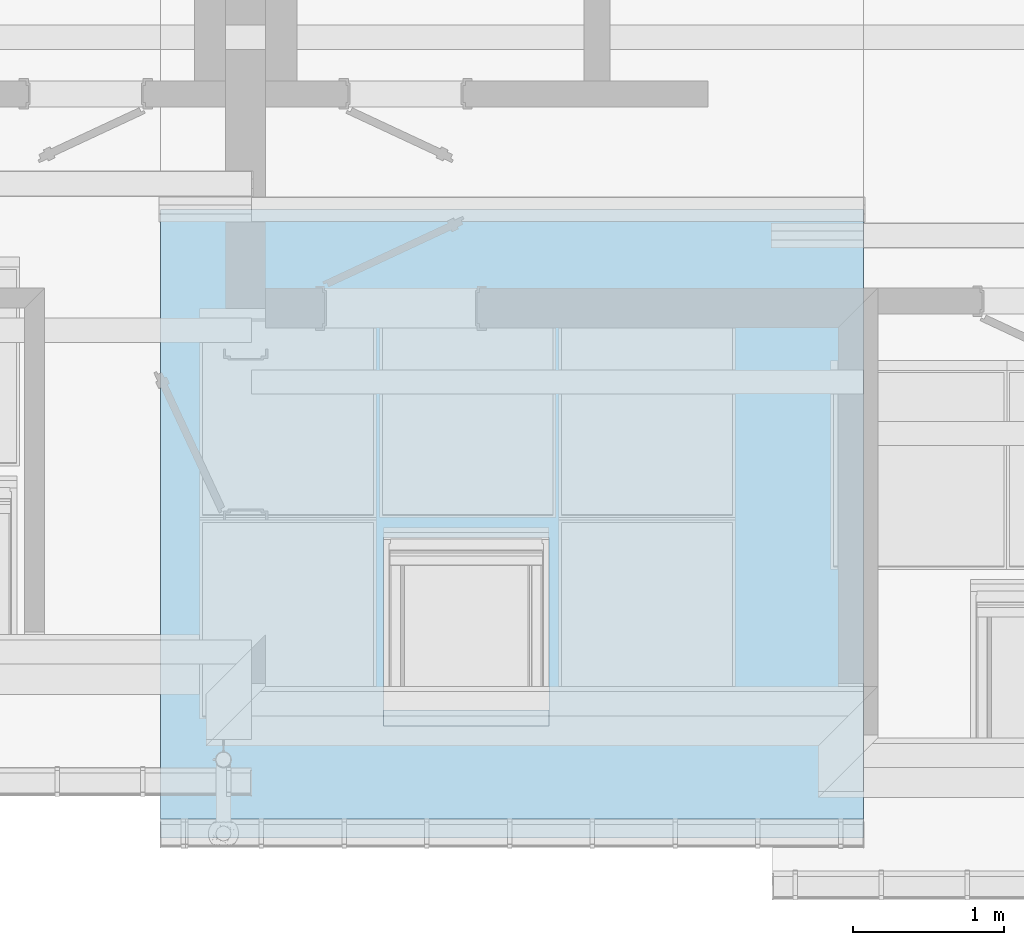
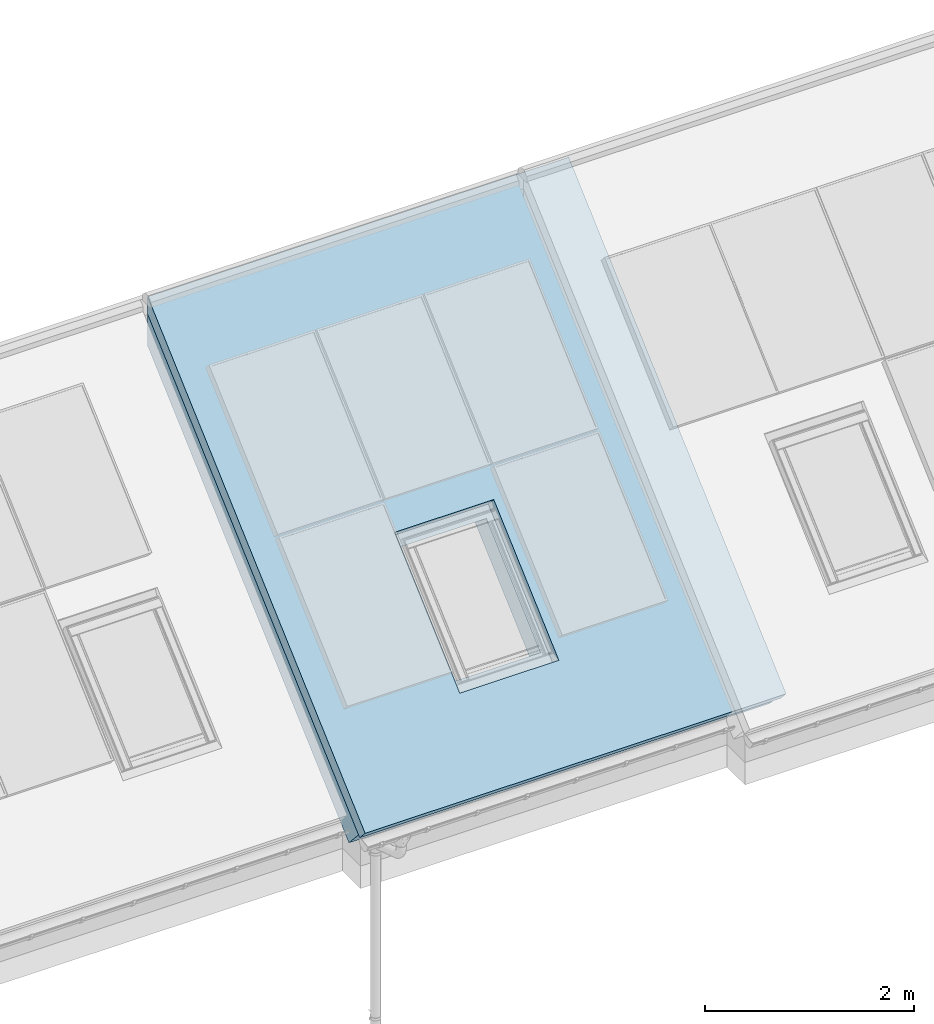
# One storey, part 3 of 43: 2 slabs, 2 openings, 1 element without a shape of its own.
"""IFC2X3 building model written with IfcOpenShell, lengths in millimetres."""

import ifcopenshell
import ifcopenshell.guid

model = None  # the IFC model being written
_history = None  # IfcOwnerHistory: only IFC2X3 demands one
_inside = {}  # id of a spatial element -> (the spatial element, [elements in it])
_under = {}  # id of a project, library or spatial element -> (it, [spatial elements below it])
_declared = {}  # id of a project -> (the project, [libraries it declares])
_typed = {}  # id of a type object -> (the type object, [elements of that type])
_made_of = {}  # id of a material, layer set ... -> (it, [elements and type objects made of it])


def new_model(schema):
    """Start an empty IFC model of exactly this schema.

    Asked for "IFC4X3", IfcOpenShell would pick the latest addendum, in which some entities
    have other attributes; the version numbers below select the first issue.
    IFC2X3 requires an IfcOwnerHistory on every rooted entity: one is made here for all.
    """
    global model, _history
    if schema == "IFC4X3":
        model = ifcopenshell.file(schema_version=(4, 3, 0, 0))
    else:
        model = ifcopenshell.file(schema=schema)
    _inside.clear()
    _under.clear()
    _declared.clear()
    _typed.clear()
    _made_of.clear()
    _history = None
    if model.schema == "IFC2X3":
        org = make("IfcOrganization", Name="unknown")
        user = make(
            "IfcPersonAndOrganization",
            ThePerson=make("IfcPerson", FamilyName="unknown"),
            TheOrganization=org,
        )
        app = make(
            "IfcApplication",
            ApplicationDeveloper=org,
            Version="unknown",
            ApplicationFullName="unknown",
            ApplicationIdentifier="unknown",
        )
        _history = make(
            "IfcOwnerHistory",
            OwningUser=user,
            OwningApplication=app,
            ChangeAction="ADDED",
            CreationDate=0,
        )
    return model


def make(cls, **values):
    """One entity of the class cls with the attributes given. An attribute that is None is left unset."""
    return model.create_entity(
        cls, **{name: value for name, value in values.items() if value is not None}
    )


def rooted(cls, **values):
    """An entity with a GlobalId (a new one), such as an element, a storey or a relation."""
    return make(cls, GlobalId=ifcopenshell.guid.new(), OwnerHistory=_history, **values)


def si_unit(unit_type, name, prefix=None):
    """IfcSIUnit, for example si_unit("LENGTHUNIT", "METRE", prefix="MILLI")."""
    return make("IfcSIUnit", UnitType=unit_type, Prefix=prefix, Name=name)


def assignment(units):
    """IfcUnitAssignment: the units of a project."""
    return None if units is None else make("IfcUnitAssignment", Units=units)


def point(xyz):
    """IfcCartesianPoint."""
    return None if xyz is None else make("IfcCartesianPoint", Coordinates=xyz)


def direction(xyz):
    """IfcDirection."""
    return None if xyz is None else make("IfcDirection", DirectionRatios=xyz)


def frame(location, z_axis=None, x_axis=None):
    """IfcAxis2Placement3D, a coordinate frame: its origin and axes. An axis left out is left unset."""
    return make(
        "IfcAxis2Placement3D",
        Location=point(location),
        Axis=direction(z_axis),
        RefDirection=direction(x_axis),
    )


def origin_with_axes():
    """The frame at (0, 0, 0) with the z axis (0, 0, 1) and the x axis (1, 0, 0) written out."""
    return frame((0.0, 0.0, 0.0), z_axis=(0.0, 0.0, 1.0), x_axis=(1.0, 0.0, 0.0))


def place(relative_to, where):
    """IfcLocalPlacement: puts the frame where relative to a parent placement (None: the world)."""
    return make(
        "IfcLocalPlacement", PlacementRelTo=relative_to, RelativePlacement=where
    )


def context(
    kind, dimensions, precision=None, world=None, true_north=None, identifier=None
):
    """IfcGeometricRepresentationContext, for example the 3D "Model" context."""
    return make(
        "IfcGeometricRepresentationContext",
        ContextIdentifier=identifier,
        ContextType=kind,
        CoordinateSpaceDimension=dimensions,
        Precision=precision,
        WorldCoordinateSystem=world,
        TrueNorth=true_north,
    )


def project(units=None, contexts=None):
    """IfcProject with its units and contexts."""
    return rooted(
        "IfcProject",
        Name="project",
        RepresentationContexts=contexts,
        UnitsInContext=assignment(units),
    )


def spatial(cls, under=None, at=None, **own):
    """A site, building, storey or space (cls), placed at a placement, below another one or the project."""
    s = rooted(cls, ObjectPlacement=at, **own)
    if under is not None:
        _under.setdefault(under.id(), (under, []))[1].append(s)
    return s


def faces_of(points, faces, orient=None, outer=None):
    """IfcFace entities. A face is a list of loops; a loop is a list of indices into points, from 0.

    orient and outer hold one flag for each loop. By default every Orientation is true, the
    first loop of a face is its IfcFaceOuterBound and the others are IfcFaceBound.
    """
    made = []
    for i, loops in enumerate(faces):
        bounds = []
        for j, loop in enumerate(loops):
            is_outer = j == 0 if outer is None else outer[i][j]
            bounds.append(
                make(
                    "IfcFaceOuterBound" if is_outer else "IfcFaceBound",
                    Bound=make("IfcPolyLoop", Polygon=[points[k] for k in loop]),
                    Orientation=True if orient is None else orient[i][j],
                )
            )
        made.append(make("IfcFace", Bounds=bounds))
    return made


def faceted_brep(points, faces, orient=None, outer=None, voids=None):
    """IfcFacetedBrep: a solid bounded by flat faces; with voids (closed shells), ...WithVoids."""
    shared = [point(p) for p in points]
    hull = make("IfcClosedShell", CfsFaces=faces_of(shared, faces, orient, outer))
    if voids is None:
        return make("IfcFacetedBrep", Outer=hull)
    return make(
        "IfcFacetedBrepWithVoids",
        Outer=hull,
        Voids=[
            make(cls, CfsFaces=faces_of(shared, fs, o, b)) for cls, fs, o, b in voids
        ],
    )


def shape(context_of_items, identifier, shape_type, items):
    """IfcShapeRepresentation: the items that make up one representation, for example the "Body"."""
    return make(
        "IfcShapeRepresentation",
        ContextOfItems=context_of_items,
        RepresentationIdentifier=identifier,
        RepresentationType=shape_type,
        Items=items,
    )


def made_of(thing, what):
    """Note that an element or type object is made of a material, layer set ...; save() writes the relation."""
    if what is not None:
        _made_of.setdefault(what.id(), (what, []))[1].append(thing)
    return thing


def element(
    cls,
    number,
    at=None,
    inside=None,
    cuts=None,
    type_object=None,
    material=None,
    context=None,
    identifier="Body",
    shape_type=None,
    held_by="IfcProductDefinitionShape",
    body=None,
    shapes=None,
    **own,
):
    """One element of the class cls, such as IfcWall. Its Tag is "e" and its number.

    at: its placement. inside: the storey or other place that contains it. cuts: it is an
    opening in that element (IfcRelVoidsElement). A single representation is given by context,
    identifier, shape_type and body (its items); several are given by shapes. held_by: the class
    of the entity that holds the representations. save() writes the other relations.
    """
    e = rooted(cls, Tag="e%d" % number, ObjectPlacement=at, **own)
    if body is not None:
        shapes = [shape(context, identifier, shape_type, body)]
    if shapes is not None:
        e.Representation = make(held_by, Representations=shapes)
    if inside is not None:
        _inside.setdefault(inside.id(), (inside, []))[1].append(e)
    if cuts is not None:
        rooted(
            "IfcRelVoidsElement", RelatingBuildingElement=cuts, RelatedOpeningElement=e
        )
    if type_object is not None:
        _typed.setdefault(type_object.id(), (type_object, []))[1].append(e)
    return made_of(e, material)


def aggregate(whole, parts):
    """IfcRelAggregates: a whole, such as a stair, and the parts it consists of."""
    return rooted("IfcRelAggregates", RelatingObject=whole, RelatedObjects=parts)


def save(model, path):
    """Write the relations noted so far, then the file.

    IfcRelAggregates (storeys below a building ...), IfcRelContainedInSpatialStructure (elements
    in a storey), IfcRelDefinesByType, IfcRelAssociatesMaterial and IfcRelDeclares: one each for
    every whole, place, type object, material and project.
    """
    for whole, parts in _under.values():
        aggregate(whole, parts)
    for where, things in _inside.values():
        rooted(
            "IfcRelContainedInSpatialStructure",
            RelatedElements=things,
            RelatingStructure=where,
        )
    for kind, things in _typed.values():
        rooted("IfcRelDefinesByType", RelatedObjects=things, RelatingType=kind)
    for what, things in _made_of.values():
        rooted("IfcRelAssociatesMaterial", RelatedObjects=things, RelatingMaterial=what)
    for by, libraries in _declared.values():
        rooted("IfcRelDeclares", RelatingContext=by, RelatedDefinitions=libraries)
    model.write(path)


model = new_model("IFC2X3")

# Units and contexts
model_context = context("Model", 3, world=origin_with_axes())
ifc_project = project(units=[si_unit("LENGTHUNIT", "METRE", prefix="MILLI")], contexts=[model_context])

# Site, building, storey
site_placement = place(None, origin_with_axes())
site = spatial("IfcSite", under=ifc_project, at=site_placement, Name="Site", CompositionType="ELEMENT")
building_placement = place(site_placement, origin_with_axes())
building = spatial("IfcBuilding", under=site, at=building_placement, Name="?", CompositionType="ELEMENT")
storey_placement = place(building_placement, frame((0.0, 0.0, 5938.0), z_axis=(0.0, 0.0, 1.0), x_axis=(1.0, 0.0, 0.0)))
storey = spatial("IfcBuildingStorey", under=building, at=storey_placement, Name="Dachgeschoß", CompositionType="ELEMENT", Elevation=5938.0)

# Roof, slabs, openings
roof_placement = place(None, origin_with_axes())
roof = element("IfcRoof", 1, at=roof_placement, inside=storey, Name="Dach02", ShapeType="NOTDEFINED")
slab_1_placement = place(roof_placement, frame((9500.0, -7098.0, 6767.55029296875), z_axis=(0.0, -0.669130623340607, 0.743144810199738), x_axis=(1.00000000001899, 0.0, 0.0)))
slab_1 = element("IfcSlab", 2, at=slab_1_placement, Name="DAFL_Rafter", PredefinedType="ROOF", context=model_context, shape_type="Brep", body=[
    faceted_brep([(4349.99912057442, 4775.65038214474, -0.000303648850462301), (-299.999998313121, 4775.65038214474, -0.000303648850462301), (-299.999703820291, 5023.26139441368, 274.999572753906), (4349.99909777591, 5023.26139441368, 274.999572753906), (4350.00007433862, -403.690063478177, -0.000303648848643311), (4349.99912057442, 4775.65038214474, -0.000303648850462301), (4349.99909777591, 5023.26139441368, 274.999572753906), (4350.00009713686, -403.688601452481, 274.999572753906), (-299.991891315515, -403.690063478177, -0.000303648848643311), (4350.00007433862, -403.690063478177, -0.000303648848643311), (4350.00009713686, -403.688601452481, 274.999572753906), (-299.991209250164, -403.688601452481, 274.999572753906), (-299.999998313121, 4775.65038214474, -0.000303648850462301), (-299.991891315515, -403.690063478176, -0.000303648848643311), (-299.991209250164, -403.688601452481, 274.999572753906), (-299.999703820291, 5023.26139441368, 274.999572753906), (4349.99909777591, 5023.26139441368, 274.999572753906), (-299.999703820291, 5023.26139441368, 274.999572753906), (-299.991209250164, -403.688601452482, 274.999572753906), (4350.00009713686, -403.688601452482, 274.999572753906), (4349.99912057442, 4775.65038214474, -0.000303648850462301), (4350.00007433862, -403.690063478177, -0.000303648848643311), (-299.991891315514, -403.690063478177, -0.000303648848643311), (-299.999998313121, 4775.65038214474, -0.000303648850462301)], [[[0, 1, 2, 3]], [[4, 5, 6, 7]], [[8, 9, 10, 11]], [[12, 13, 14, 15]], [[16, 17, 18, 19]], [[20, 21, 22, 23]]]),
])
opening_1_placement = place(slab_1_placement, frame((1251.99999997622, 2116.30584858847, 274.999774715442), z_axis=(0.0, -1.0000000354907, -1.28473057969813e-07), x_axis=(1.00000000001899, 0.0, 0.0)))
element("IfcOpeningElement", 3, at=opening_1_placement, cuts=slab_1, Name="DAFL_Rafter|DF03", context=model_context, shape_type="Brep", body=[
    faceted_brep([(940.0, -285.00007118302, -316.528941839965), (940.0, -284.999850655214, 1400.00060478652), (-0.00161939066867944, -284.999850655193, 1400.00076814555), (-1.24373400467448e-10, -285.00007118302, -316.528941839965), (940.0, -285.00007118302, -316.528941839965), (-1.24146026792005e-10, -285.00007118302, -316.528941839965), (-0.000642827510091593, 9.99997376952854, 11.1002553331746), (940.0, 9.99997376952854, 11.1002553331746), (940.0, -284.999850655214, 1400.00060478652), (940.0, -285.00007118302, -316.528941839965), (940.0, 9.99997376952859, 11.1002553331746), (940.0, 10.0001522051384, 1399.99538731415), (-0.00161939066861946, -284.999850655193, 1400.00076814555), (940.0, -284.999850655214, 1400.00060478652), (940.0, 10.0001522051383, 1399.99538731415), (-0.00195312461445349, 10.0001522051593, 1399.99555067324), (-1.24212233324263e-10, -285.00007118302, -316.528941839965), (-0.00161939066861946, -284.999850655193, 1400.00076814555), (-0.00195312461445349, 10.0001522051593, 1399.99555067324), (-0.000642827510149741, 9.99997376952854, 11.1002553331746), (940.0, 9.99997376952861, 11.1002553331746), (-0.000642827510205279, 9.99997376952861, 11.1002553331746), (-0.00195312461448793, 10.0001522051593, 1399.99555067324), (940.0, 10.0001522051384, 1399.99538731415)], [[[0, 1, 2, 3]], [[4, 5, 6, 7]], [[8, 9, 10, 11]], [[12, 13, 14, 15]], [[16, 17, 18, 19]], [[20, 21, 22, 23]]]),
])
slab_2_placement = place(roof_placement, frame((9500.0, -7098.0, 6767.55029296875), z_axis=(0.0, -0.669130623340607, 0.743144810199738), x_axis=(1.00000000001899, 0.0, 0.0)))
slab_2 = element("IfcSlab", 4, at=slab_2_placement, Name="DAFL_Tile", PredefinedType="ROOF", context=model_context, shape_type="Brep", body=[
    faceted_brep([(4349.99826855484, 5023.26139441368, 274.999572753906), (-300.000004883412, 5023.26139441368, 274.999572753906), (-299.999943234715, 5162.82413760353, 429.999694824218), (4349.99824389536, 5162.82413760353, 429.999694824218), (4350.00019702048, -433.696495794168, 274.999572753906), (4349.99826855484, 5023.26139441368, 274.999572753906), (4349.99824389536, 5162.82413760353, 429.999694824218), (4350.00022167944, -433.689594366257, 429.999694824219), (-300.004826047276, -433.696495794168, 274.999572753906), (4350.00019702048, -433.696495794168, 274.999572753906), (4350.00022167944, -433.689594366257, 429.999694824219), (-300.004887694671, -433.689594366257, 429.999694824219), (-300.000004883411, 5023.26139441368, 274.999572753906), (-300.004826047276, -433.696495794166, 274.999572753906), (-300.004887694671, -433.689594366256, 429.999694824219), (-299.999943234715, 5162.82413760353, 429.999694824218), (4349.99824389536, 5162.82413760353, 429.999694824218), (-299.999943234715, 5162.82413760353, 429.999694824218), (-300.004887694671, -433.689594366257, 429.999694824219), (4350.00022167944, -433.689594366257, 429.999694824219), (4349.99826855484, 5023.26139441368, 274.999572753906), (4350.00019702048, -433.696495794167, 274.999572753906), (-300.004826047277, -433.696495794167, 274.999572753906), (-300.000004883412, 5023.26139441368, 274.999572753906)], [[[0, 1, 2, 3]], [[4, 5, 6, 7]], [[8, 9, 10, 11]], [[12, 13, 14, 15]], [[16, 17, 18, 19]], [[20, 21, 22, 23]]]),
])
opening_2_placement = place(slab_2_placement, frame((1251.99999997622, 2116.30584858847, 274.999774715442), z_axis=(0.0, -1.0000000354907, -1.28473057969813e-07), x_axis=(1.00000000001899, 0.0, 0.0)))
element("IfcOpeningElement", 5, at=opening_2_placement, cuts=slab_2, Name="DAFL_Tile|DF03", context=model_context, shape_type="Brep", body=[
    faceted_brep([(1016.99901047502, -10.0010205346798, -126.99646462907), (1016.99998703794, -10.0008052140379, 1549.00190676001), (-77.0000000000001, -10.0008052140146, 1549.00208818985), (-77.0000000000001, -10.0010205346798, -126.99646462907), (1016.99901047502, -10.0010205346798, -126.99646462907), (-77.0000000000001, -10.0010205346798, -126.99646462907), (-77.0000000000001, 164.999953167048, -126.994513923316), (1016.99901047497, 164.999953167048, -126.994513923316), (1016.99998703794, -10.0008052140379, 1549.00190676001), (1016.99901047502, -10.0010205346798, -126.99646462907), (1016.99901047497, 164.999953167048, -126.994513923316), (1016.999987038, 165.000168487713, 1549.0040388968), (-77.0, -10.0008052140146, 1549.00208818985), (1016.99998703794, -10.0008052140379, 1549.00190676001), (1016.999987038, 165.000168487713, 1549.0040388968), (-77.0, 165.000168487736, 1549.00422032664), (-77.0, -10.0010205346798, -126.99646462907), (-77.0, -10.0008052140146, 1549.00208818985), (-77.0, 165.000168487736, 1549.00422032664), (-77.0, 164.999953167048, -126.994513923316), (1016.99901047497, 164.999953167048, -126.994513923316), (-77.0000000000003, 164.999953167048, -126.994513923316), (-77.0000000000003, 165.000168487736, 1549.00422032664), (1016.999987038, 165.000168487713, 1549.0040388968)], [[[0, 1, 2, 3]], [[4, 5, 6, 7]], [[8, 9, 10, 11]], [[12, 13, 14, 15]], [[16, 17, 18, 19]], [[20, 21, 22, 23]]]),
])
aggregate(roof, [slab_1, slab_2])

save(model, "model.ifc")
